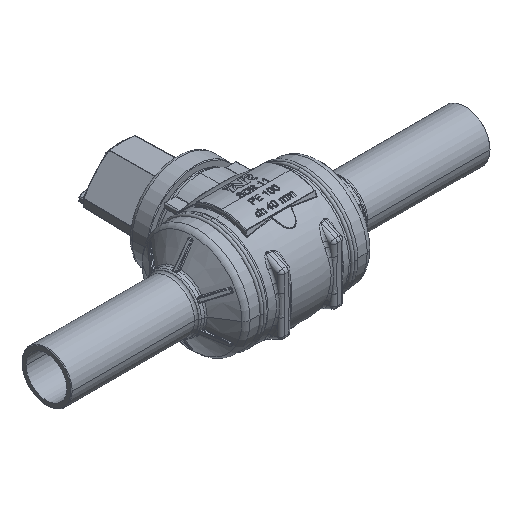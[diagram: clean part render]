
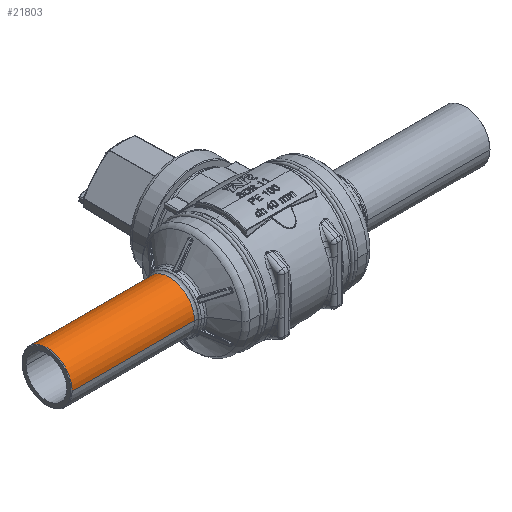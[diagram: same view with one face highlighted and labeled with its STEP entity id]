
A CAD part, isometric view. The second image highlights one B-rep face of the part: STEP entity #21803.
In plain terms, the highlighted cylindrical face has radius 20 mm (diameter 40 mm), a partial arc.
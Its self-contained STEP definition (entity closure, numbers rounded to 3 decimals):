
#174 = DIRECTION ( 'NONE',  ( -1., 0., 0. ) ) ;
#1516 = EDGE_CURVE ( 'NONE', #3257, #18977, #74612, .T. ) ;
#3257 = VERTEX_POINT ( 'NONE', #78948 ) ;
#14728 = DIRECTION ( 'NONE',  ( 0., -1., 0. ) ) ;
#15412 = EDGE_CURVE ( 'NONE', #3257, #40784, #81961, .T. ) ;
#18977 = VERTEX_POINT ( 'NONE', #87276 ) ;
#20479 = CARTESIAN_POINT ( 'NONE',  ( -166.61, 20., 0. ) ) ;
#20854 = ORIENTED_EDGE ( 'NONE', *, *, #24853, .T. ) ;
#21803 = ADVANCED_FACE ( 'NONE', ( #24687 ), #25575, .T. ) ;
#24687 = FACE_OUTER_BOUND ( 'NONE', #42898, .T. ) ;
#24853 = EDGE_CURVE ( 'NONE', #51697, #40784, #65394, .T. ) ;
#25575 = CYLINDRICAL_SURFACE ( 'NONE', #56838, 20. ) ;
#31265 = CARTESIAN_POINT ( 'NONE',  ( -166.61, -20., 0. ) ) ;
#37961 = LINE ( 'NONE', #67468, #66780 ) ;
#40784 = VERTEX_POINT ( 'NONE', #31265 ) ;
#41661 = ORIENTED_EDGE ( 'NONE', *, *, #50116, .T. ) ;
#42898 = EDGE_LOOP ( 'NONE', ( #78828, #41661, #20854, #45592 ) ) ;
#44765 = DIRECTION ( 'NONE',  ( -1., 0., 0. ) ) ;
#45592 = ORIENTED_EDGE ( 'NONE', *, *, #15412, .F. ) ;
#45604 = AXIS2_PLACEMENT_3D ( 'NONE', #68022, #82599, #14728 ) ;
#46010 = DIRECTION ( 'NONE',  ( 0., -1., 0. ) ) ;
#50116 = EDGE_CURVE ( 'NONE', #18977, #51697, #37961, .T. ) ;
#51697 = VERTEX_POINT ( 'NONE', #20479 ) ;
#56838 = AXIS2_PLACEMENT_3D ( 'NONE', #87418, #81038, #46010 ) ;
#60951 = AXIS2_PLACEMENT_3D ( 'NONE', #82022, #89738, #68812 ) ;
#62379 = CARTESIAN_POINT ( 'NONE',  ( -111.522, -20., 0. ) ) ;
#65394 = CIRCLE ( 'NONE', #60951, 20. ) ;
#66780 = VECTOR ( 'NONE', #44765, 1000. ) ;
#67468 = CARTESIAN_POINT ( 'NONE',  ( -111.522, 20., 0. ) ) ;
#68022 = CARTESIAN_POINT ( 'NONE',  ( -69.11, 0., 0. ) ) ;
#68812 = DIRECTION ( 'NONE',  ( 0., -1., 0. ) ) ;
#74612 = CIRCLE ( 'NONE', #45604, 20. ) ;
#78828 = ORIENTED_EDGE ( 'NONE', *, *, #1516, .T. ) ;
#78948 = CARTESIAN_POINT ( 'NONE',  ( -69.11, -20., 0. ) ) ;
#81038 = DIRECTION ( 'NONE',  ( -1., 0., 0. ) ) ;
#81961 = LINE ( 'NONE', #62379, #89311 ) ;
#82022 = CARTESIAN_POINT ( 'NONE',  ( -166.61, 0., 0. ) ) ;
#82599 = DIRECTION ( 'NONE',  ( -1., 0., 0. ) ) ;
#87276 = CARTESIAN_POINT ( 'NONE',  ( -69.11, 20., 0. ) ) ;
#87418 = CARTESIAN_POINT ( 'NONE',  ( -111.522, 0., 0. ) ) ;
#89311 = VECTOR ( 'NONE', #174, 1000. ) ;
#89738 = DIRECTION ( 'NONE',  ( 1., 0., 0. ) ) ;
